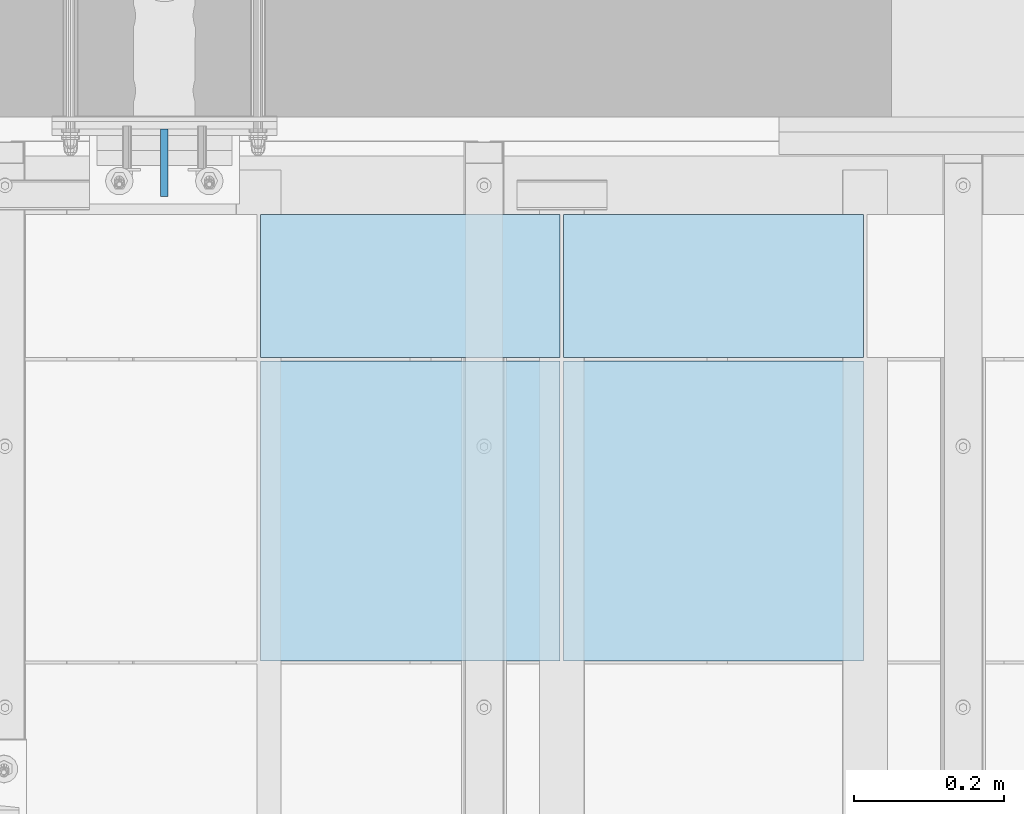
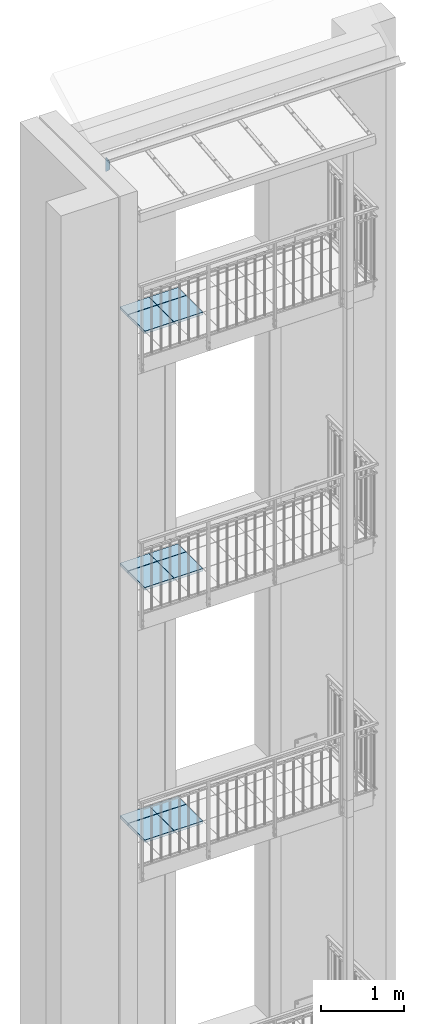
# One storey, part 63 of 162: 13 plates, 2 openings.
"""IFC2X3 building model written with IfcOpenShell, lengths in millimetres."""

from ifc_helpers import new_model, entity, si_unit, converted_unit, frame, frame_2d, origin, origin_with_axes, place, context, project, spatial, polyline, circle, outline, extrude, material, layer, layer_set, element, save


model = new_model("IFC2X3")

# Units and contexts
model_context = context("Model", 3, precision=1e-09, world=origin_with_axes())
ifc_project = project(units=[si_unit("LENGTHUNIT", "METRE", prefix="MILLI"), si_unit("AREAUNIT", "SQUARE_METRE"), si_unit("VOLUMEUNIT", "CUBIC_METRE"), converted_unit("PLANEANGLEUNIT", "DEGREE", entity("IfcPlaneAngleMeasure", 0.01745329), si_unit("PLANEANGLEUNIT", "RADIAN"), dimensions=[0, 0, 0, 0, 0, 0, 0])], contexts=[model_context])

# Site, building, storey
site_placement = place(None, origin_with_axes())
site = spatial("IfcSite", under=ifc_project, at=site_placement, Name="Hermannstra?e 1a, 60318 Frankfurt", CompositionType="ELEMENT")
building_placement = place(site_placement, origin_with_axes())
building = spatial("IfcBuilding", under=site, at=building_placement, Name="Struktur 1", CompositionType="ELEMENT")
storey_placement = place(building_placement, origin_with_axes())
storey = spatial("IfcBuildingStorey", under=building, at=storey_placement, Name="Default Storey", CompositionType="ELEMENT", Elevation=0.0)

# Plates
ifc_material_1 = material(Name="BWS")
ifc_layer_1 = layer(ifc_material_1, 40.0)
ifc_layer_set_1 = layer_set([ifc_layer_1], Name="BWS")
plate_1_placement = place(None, frame((3335.80936482, 2410.109373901, 7774.0), z_axis=(0.0, 0.0, -1.0), x_axis=(1.0, 0.0, 0.0)))
element("IfcPlate", 1, at=plate_1_placement, inside=storey, material=ifc_layer_set_1, Name="-", ObjectType="-", context=model_context, shape_type="SweptSolid", body=[
    extrude(outline(polyline([(0.0, 0.0), (400.0, 0.0), (400.0, 400.0), (0.0, 400.0), (0.0, 0.0)])), origin_with_axes(), (0.0, 0.0, 1.0), 40.0),
])
plate_2_placement = place(None, frame((3335.80936482, 2814.609373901, 7774.0), z_axis=(0.0, 0.0, -1.0), x_axis=(1.0, 0.0, 0.0)))
element("IfcPlate", 2, at=plate_2_placement, inside=storey, material=ifc_layer_set_1, Name="-", ObjectType="-", context=model_context, shape_type="SweptSolid", body=[
    extrude(outline(polyline([(0.0, 209.0), (400.0, 209.0), (400.0, 400.0), (0.0, 400.0), (0.0, 209.0)])), origin_with_axes(), (0.0, 0.0, 1.0), 40.0),
])
plate_3_placement = place(None, frame((2931.30936482, 2410.109373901, 7774.0), z_axis=(0.0, 0.0, -1.0), x_axis=(1.0, 0.0, 0.0)))
element("IfcPlate", 3, at=plate_3_placement, inside=storey, material=ifc_layer_set_1, Name="-", ObjectType="-", context=model_context, shape_type="SweptSolid", body=[
    extrude(outline(polyline([(0.0, 0.0), (400.0, 0.0), (400.0, 400.0), (0.0, 400.0), (0.0, 0.0)])), origin_with_axes(), (0.0, 0.0, 1.0), 40.0),
])
plate_4_placement = place(None, frame((2931.30936482, 2814.609373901, 7774.0), z_axis=(0.0, 0.0, -1.0), x_axis=(1.0, 0.0, 0.0)))
element("IfcPlate", 4, at=plate_4_placement, inside=storey, material=ifc_layer_set_1, Name="-", ObjectType="-", context=model_context, shape_type="SweptSolid", body=[
    extrude(outline(polyline([(0.0, 209.0), (400.0, 209.0), (400.0, 400.0), (0.0, 400.0), (0.0, 209.0)])), origin_with_axes(), (0.0, 0.0, 1.0), 40.0),
])
plate_5_placement = place(None, frame((3335.80936482, 2410.109373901, 11473.999), z_axis=(0.0, 0.0, -1.0), x_axis=(1.0, 0.0, 0.0)))
element("IfcPlate", 5, at=plate_5_placement, inside=storey, material=ifc_layer_set_1, Name="-", ObjectType="-", context=model_context, shape_type="SweptSolid", body=[
    extrude(outline(polyline([(0.0, 0.0), (400.0, 0.0), (400.0, 400.0), (0.0, 400.0), (0.0, 0.0)])), origin_with_axes(), (0.0, 0.0, 1.0), 40.0),
])
plate_6_placement = place(None, frame((3335.80936482, 2814.609373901, 11473.999), z_axis=(0.0, 0.0, -1.0), x_axis=(1.0, 0.0, 0.0)))
element("IfcPlate", 6, at=plate_6_placement, inside=storey, material=ifc_layer_set_1, Name="-", ObjectType="-", context=model_context, shape_type="SweptSolid", body=[
    extrude(outline(polyline([(0.0, 209.0), (400.0, 209.0), (400.0, 400.0), (0.0, 400.0), (0.0, 209.0)])), origin_with_axes(), (0.0, 0.0, 1.0), 40.0),
])
plate_7_placement = place(None, frame((2931.30936482, 2410.109373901, 11473.999), z_axis=(0.0, 0.0, -1.0), x_axis=(1.0, 0.0, 0.0)))
element("IfcPlate", 7, at=plate_7_placement, inside=storey, material=ifc_layer_set_1, Name="-", ObjectType="-", context=model_context, shape_type="SweptSolid", body=[
    extrude(outline(polyline([(0.0, 0.0), (400.0, 0.0), (400.0, 400.0), (0.0, 400.0), (0.0, 0.0)])), origin_with_axes(), (0.0, 0.0, 1.0), 40.0),
])
plate_8_placement = place(None, frame((2931.30936482, 2814.609373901, 11473.999), z_axis=(0.0, 0.0, -1.0), x_axis=(1.0, 0.0, 0.0)))
element("IfcPlate", 8, at=plate_8_placement, inside=storey, material=ifc_layer_set_1, Name="-", ObjectType="-", context=model_context, shape_type="SweptSolid", body=[
    extrude(outline(polyline([(0.0, 209.0), (400.0, 209.0), (400.0, 400.0), (0.0, 400.0), (0.0, 209.0)])), origin_with_axes(), (0.0, 0.0, 1.0), 40.0),
])
plate_9_placement = place(None, frame((3335.80936482, 2410.109373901, 15230.999), z_axis=(0.0, 0.0, -1.0), x_axis=(1.0, 0.0, 0.0)))
element("IfcPlate", 9, at=plate_9_placement, inside=storey, material=ifc_layer_set_1, Name="-", ObjectType="-", context=model_context, shape_type="SweptSolid", body=[
    extrude(outline(polyline([(0.0, 0.0), (400.0, 0.0), (400.0, 400.0), (0.0, 400.0), (0.0, 0.0)])), origin_with_axes(), (0.0, 0.0, 1.0), 40.0),
])
plate_10_placement = place(None, frame((3335.80936482, 2814.609373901, 15230.999), z_axis=(0.0, 0.0, -1.0), x_axis=(1.0, 0.0, 0.0)))
element("IfcPlate", 10, at=plate_10_placement, inside=storey, material=ifc_layer_set_1, Name="-", ObjectType="-", context=model_context, shape_type="SweptSolid", body=[
    extrude(outline(polyline([(0.0, 209.0), (400.0, 209.0), (400.0, 400.0), (0.0, 400.0), (0.0, 209.0)])), origin_with_axes(), (0.0, 0.0, 1.0), 40.0),
])
plate_11_placement = place(None, frame((2931.30936482, 2410.109373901, 15230.999), z_axis=(0.0, 0.0, -1.0), x_axis=(1.0, 0.0, 0.0)))
element("IfcPlate", 11, at=plate_11_placement, inside=storey, material=ifc_layer_set_1, Name="-", ObjectType="-", context=model_context, shape_type="SweptSolid", body=[
    extrude(outline(polyline([(0.0, 0.0), (400.0, 0.0), (400.0, 400.0), (0.0, 400.0), (0.0, 0.0)])), origin_with_axes(), (0.0, 0.0, 1.0), 40.0),
])
plate_12_placement = place(None, frame((2931.30936482, 2814.609373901, 15230.999), z_axis=(0.0, 0.0, -1.0), x_axis=(1.0, 0.0, 0.0)))
element("IfcPlate", 12, at=plate_12_placement, inside=storey, material=ifc_layer_set_1, Name="-", ObjectType="-", context=model_context, shape_type="SweptSolid", body=[
    extrude(outline(polyline([(0.0, 209.0), (400.0, 209.0), (400.0, 400.0), (0.0, 400.0), (0.0, 209.0)])), origin_with_axes(), (0.0, 0.0, 1.0), 40.0),
])

# Plate, openings
ifc_material_2 = material(Name="S235JR")
ifc_layer_2 = layer(ifc_material_2, 10.0)
ifc_layer_set_2 = layer_set([ifc_layer_2], Name="S235JR")
plate_13_placement = place(None, frame((2798.309364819, 2674.609373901, 17294.041049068), z_axis=(1.0, 0.0, 0.0), x_axis=(0.0, 1.0, 0.0)))
plate_13 = element("IfcPlate", 13, at=plate_13_placement, inside=storey, material=ifc_layer_set_2, Name="-", ObjectType="-", context=model_context, shape_type="SweptSolid", body=[
    extrude(outline(polyline([(-45.0, -102.042049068), (45.0, -102.042049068), (45.0, 102.042049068), (-45.0, 92.582667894), (-45.0, -102.042049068)])), origin_with_axes(), (0.0, 0.0, 1.0), 10.0),
])
opening_1_placement = place(plate_13_placement, frame((0.0, -22.042049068, -0.01), z_axis=(0.0, 0.0, 1.0), x_axis=(1.0, 0.0, 0.0)))
element("IfcOpeningElement", 14, at=opening_1_placement, cuts=plate_13, ObjectType="Opening", context=model_context, shape_type="SweptSolid", body=[
    extrude(outline(polyline([(-45.0, -80.0), (35.0, -80.0), (-45.0, 0.0), (-45.0, -80.0)])), origin(), (0.0, 0.0, 1.0), 10.02),
])
opening_2_placement = place(plate_13_placement, frame((45.0, 102.042049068, -0.5), z_axis=(0.0, 0.0, 1.0), x_axis=(1.0, 0.0, 0.0)))
element("IfcOpeningElement", 15, at=opening_2_placement, cuts=plate_13, ObjectType="Opening", context=model_context, shape_type="SweptSolid", body=[
    extrude(circle(Radius=6.001, at=frame_2d((-11.0, -12.0), x_axis=(1.0, 0.0))), origin(), (0.0, 0.0, 1.0), 11.0),
])

save(model, "model.ifc")
